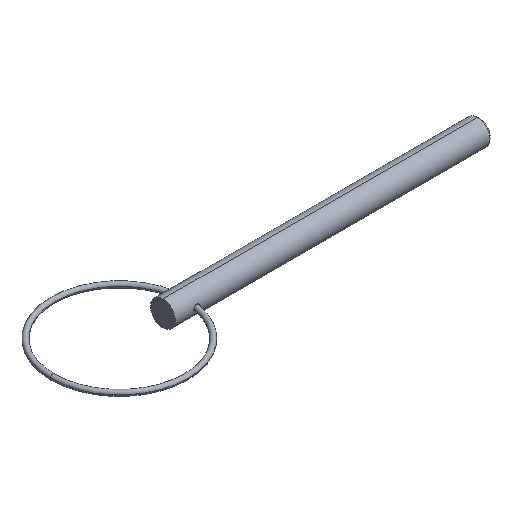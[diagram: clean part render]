
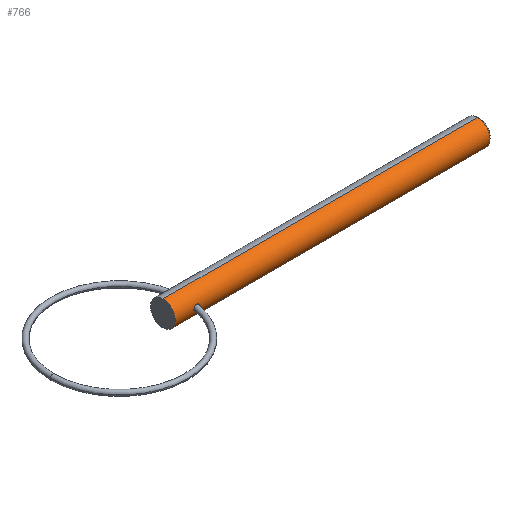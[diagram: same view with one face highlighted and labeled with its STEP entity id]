
A CAD part, isometric view. The second image highlights one B-rep face of the part: STEP entity #766.
In plain terms, the highlighted cylindrical face has radius 2.38 mm (diameter 4.76 mm), a partial arc.
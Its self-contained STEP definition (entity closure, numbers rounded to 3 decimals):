
#6 = ORIENTED_EDGE ( 'NONE', *, *, #423, .T. ) ;
#16 = CARTESIAN_POINT ( 'NONE',  ( 3.538, -2.38, 0. ) ) ;
#20 = ORIENTED_EDGE ( 'NONE', *, *, #674, .T. ) ;
#30 = CARTESIAN_POINT ( 'NONE',  ( 60.035, 0., 2.38 ) ) ;
#33 = CIRCLE ( 'NONE', #47, 2.38 ) ;
#42 = CARTESIAN_POINT ( 'NONE',  ( 4.307, -2.304, 0.597 ) ) ;
#47 = AXIS2_PLACEMENT_3D ( 'NONE', #555, #307, #683 ) ;
#53 = CARTESIAN_POINT ( 'NONE',  ( 0., 0., -2.38 ) ) ;
#54 = CYLINDRICAL_SURFACE ( 'NONE', #669, 2.38 ) ;
#73 = VERTEX_POINT ( 'NONE', #391 ) ;
#81 = VERTEX_POINT ( 'NONE', #30 ) ;
#84 = VECTOR ( 'NONE', #583, 1000. ) ;
#97 = DIRECTION ( 'NONE',  ( 1., 0., 0. ) ) ;
#106 = CARTESIAN_POINT ( 'NONE',  ( 4.75, -2.38, 0.157 ) ) ;
#114 = EDGE_CURVE ( 'NONE', #673, #81, #724, .T. ) ;
#115 = ORIENTED_EDGE ( 'NONE', *, *, #757, .T. ) ;
#156 = CARTESIAN_POINT ( 'NONE',  ( 3.538, -2.38, -0.159 ) ) ;
#170 = CARTESIAN_POINT ( 'NONE',  ( 4.75, -2.38, 0. ) ) ;
#196 = AXIS2_PLACEMENT_3D ( 'NONE', #459, #97, #441 ) ;
#210 = CARTESIAN_POINT ( 'NONE',  ( 4.75, -2.38, -0.157 ) ) ;
#224 = CARTESIAN_POINT ( 'NONE',  ( 3.991, -2.305, 0.592 ) ) ;
#227 = CARTESIAN_POINT ( 'NONE',  ( 0., 0., 2.38 ) ) ;
#232 = EDGE_LOOP ( 'NONE', ( #115, #6 ) ) ;
#233 = EDGE_CURVE ( 'NONE', #673, #774, #33, .T. ) ;
#291 = DIRECTION ( 'NONE',  ( 1., 0., 0. ) ) ;
#296 = CARTESIAN_POINT ( 'NONE',  ( 0., 0., -2.38 ) ) ;
#303 = CARTESIAN_POINT ( 'NONE',  ( 3.836, -2.323, 0.528 ) ) ;
#307 = DIRECTION ( 'NONE',  ( 1., 0., 0. ) ) ;
#309 = B_SPLINE_CURVE_WITH_KNOTS ( 'NONE', 3,
 ( #584, #663, #789, #303, #224, #42, #647, #595, #106, #170 ),
 .UNSPECIFIED., .F., .F.,
 ( 4, 2, 2, 2, 4 ),
 ( 0., 0.001, 0.001, 0.002, 0.002 ),
 .UNSPECIFIED. ) ;
#319 = VERTEX_POINT ( 'NONE', #513 ) ;
#329 = CARTESIAN_POINT ( 'NONE',  ( 4.687, -2.362, -0.314 ) ) ;
#334 = CARTESIAN_POINT ( 'NONE',  ( 3.61, -2.362, -0.312 ) ) ;
#350 = DIRECTION ( 'NONE',  ( 1., 0., 0. ) ) ;
#358 = DIRECTION ( 'NONE',  ( 0., 0., -1. ) ) ;
#370 = VECTOR ( 'NONE', #350, 1000. ) ;
#371 = EDGE_CURVE ( 'NONE', #81, #73, #787, .T. ) ;
#387 = CARTESIAN_POINT ( 'NONE',  ( 4.464, -2.322, -0.536 ) ) ;
#391 = CARTESIAN_POINT ( 'NONE',  ( 60.035, 0., -2.38 ) ) ;
#397 = CARTESIAN_POINT ( 'NONE',  ( 3.836, -2.323, -0.528 ) ) ;
#410 = CARTESIAN_POINT ( 'NONE',  ( 0., 0., 0. ) ) ;
#423 = EDGE_CURVE ( 'NONE', #630, #319, #475, .T. ) ;
#441 = DIRECTION ( 'NONE',  ( 0., 0., -1. ) ) ;
#456 = CARTESIAN_POINT ( 'NONE',  ( 4.307, -2.304, -0.597 ) ) ;
#459 = CARTESIAN_POINT ( 'NONE',  ( 60.035, 0., 0. ) ) ;
#468 = FACE_BOUND ( 'NONE', #232, .T. ) ;
#475 = B_SPLINE_CURVE_WITH_KNOTS ( 'NONE', 3,
 ( #635, #210, #329, #387, #456, #625, #397, #334, #156, #16 ),
 .UNSPECIFIED., .F., .F.,
 ( 4, 2, 2, 2, 4 ),
 ( 0.002, 0.003, 0.003, 0.004, 0.004 ),
 .UNSPECIFIED. ) ;
#512 = ORIENTED_EDGE ( 'NONE', *, *, #114, .F. ) ;
#513 = CARTESIAN_POINT ( 'NONE',  ( 3.538, -2.38, 0. ) ) ;
#555 = CARTESIAN_POINT ( 'NONE',  ( 0., 0., 0. ) ) ;
#583 = DIRECTION ( 'NONE',  ( 1., 0., 0. ) ) ;
#584 = CARTESIAN_POINT ( 'NONE',  ( 3.538, -2.38, 0. ) ) ;
#595 = CARTESIAN_POINT ( 'NONE',  ( 4.687, -2.362, 0.314 ) ) ;
#602 = EDGE_LOOP ( 'NONE', ( #512, #754, #20, #612 ) ) ;
#612 = ORIENTED_EDGE ( 'NONE', *, *, #371, .F. ) ;
#625 = CARTESIAN_POINT ( 'NONE',  ( 3.992, -2.305, -0.592 ) ) ;
#630 = VERTEX_POINT ( 'NONE', #645 ) ;
#635 = CARTESIAN_POINT ( 'NONE',  ( 4.75, -2.38, 0. ) ) ;
#645 = CARTESIAN_POINT ( 'NONE',  ( 4.75, -2.38, 0. ) ) ;
#647 = CARTESIAN_POINT ( 'NONE',  ( 4.465, -2.322, 0.535 ) ) ;
#663 = CARTESIAN_POINT ( 'NONE',  ( 3.538, -2.38, 0.159 ) ) ;
#669 = AXIS2_PLACEMENT_3D ( 'NONE', #410, #291, #358 ) ;
#673 = VERTEX_POINT ( 'NONE', #773 ) ;
#674 = EDGE_CURVE ( 'NONE', #774, #73, #786, .T. ) ;
#683 = DIRECTION ( 'NONE',  ( 0., 0., -1. ) ) ;
#714 = FACE_OUTER_BOUND ( 'NONE', #602, .T. ) ;
#724 = LINE ( 'NONE', #227, #84 ) ;
#754 = ORIENTED_EDGE ( 'NONE', *, *, #233, .T. ) ;
#757 = EDGE_CURVE ( 'NONE', #319, #630, #309, .T. ) ;
#766 = ADVANCED_FACE ( 'NONE', ( #714, #468 ), #54, .T. ) ;
#773 = CARTESIAN_POINT ( 'NONE',  ( 0., 0., 2.38 ) ) ;
#774 = VERTEX_POINT ( 'NONE', #296 ) ;
#786 = LINE ( 'NONE', #53, #370 ) ;
#787 = CIRCLE ( 'NONE', #196, 2.38 ) ;
#789 = CARTESIAN_POINT ( 'NONE',  ( 3.61, -2.362, 0.313 ) ) ;
